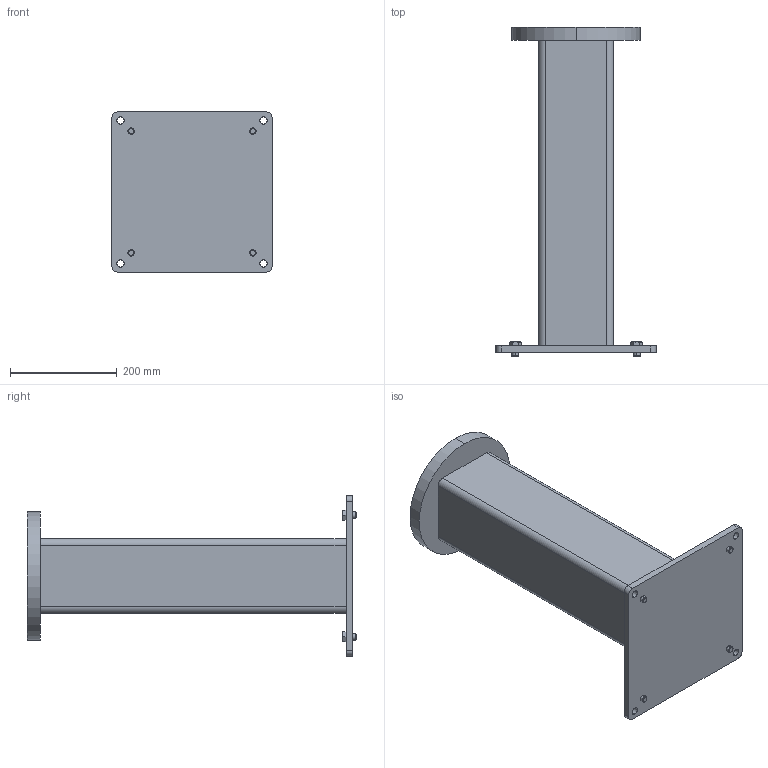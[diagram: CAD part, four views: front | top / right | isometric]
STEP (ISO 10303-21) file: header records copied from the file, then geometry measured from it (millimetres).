
FILE_DESCRIPTION (( 'STEP AP203' ), '1' );
FILE_NAME ('welded stand 36_STEP__9_27_2023.step', '2023-09-27T17:35:27', ( '' ), ( '' ), 'SwSTEP 2.0', 'SolidWorks 2022', '' );
FILE_SCHEMA (( 'CONFIG_CONTROL_DESIGN' ));
Length unit declared in the file: inch
Products named in the file (5): TUBE 36_24 inch<As Machined>; welded stand 36_STEP__9_27_2023; M12_91310A706; TOP 36; BOTTOM 36_Default<As Machined>
Assembly tree (7 placements, depth 2):
  welded stand 36_STEP__9_27_2023
    BOTTOM 36_Default<As Machined>
    TUBE 36_24 inch<As Machined>
    TOP 36
    M12_91310A706  x4
Bounding box: 300 x 617.1 x 300 mm (x, y, z)
Volume: 4592676.8 mm3; surface area: 915501.7 mm2
Topology: 7 solids, 7 shells, 368 faces, 906 edges, 560 vertices
Faces by surface type: plane 118, bspline 100, cylinder 78, cone 72
Entity records: 7514 total; most frequent: CARTESIAN_POINT 2652, DIRECTION 867, ORIENTED_EDGE 862, EDGE_CURVE 431, AXIS2_PLACEMENT_3D 325, VERTEX_POINT 278, EDGE_LOOP 233, LINE 217
